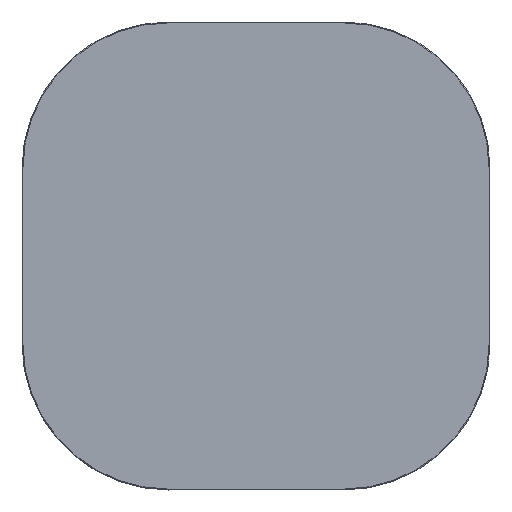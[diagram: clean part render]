
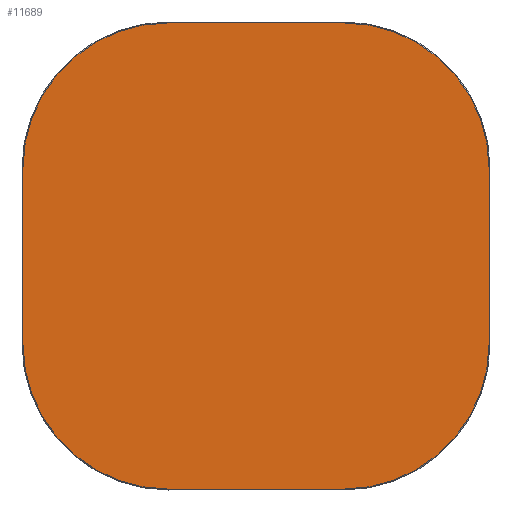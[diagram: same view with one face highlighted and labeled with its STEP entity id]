
A CAD part, top view. The second image highlights one B-rep face of the part: STEP entity #11689.
In plain terms, the highlighted planar face has unit normal (0, 0, 1).
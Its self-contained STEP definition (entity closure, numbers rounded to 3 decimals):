
#11614=CARTESIAN_POINT('',(0.,0.,20.));
#11615=DIRECTION('',(1.,0.,0.));
#11616=DIRECTION('',(0.,0.,1.));
#11617=AXIS2_PLACEMENT_3D('',#11614,#11616,#11615);
#11618=PLANE('',#11617);
#11619=CARTESIAN_POINT('',(-150.,-398.5,20.));
#11620=VERTEX_POINT('',#11619);
#11621=CARTESIAN_POINT('',(150.,-398.5,20.));
#11622=VERTEX_POINT('',#11621);
#11623=CARTESIAN_POINT('',(-150.,-398.5,20.));
#11624=DIRECTION('',(1.,0.,0.));
#11625=VECTOR('',#11624,300.);
#11626=LINE('',#11623,#11625);
#11627=EDGE_CURVE('',#11620,#11622,#11626,.T.);
#11628=ORIENTED_EDGE('E105',*,*,#11627,.T.);
#11629=CARTESIAN_POINT('',(398.5,-150.,20.));
#11630=VERTEX_POINT('',#11629);
#11631=CARTESIAN_POINT('',(150.,-150.,20.));
#11632=DIRECTION('',(0.,-1.,0.));
#11633=DIRECTION('',(0.,0.,1.));
#11634=AXIS2_PLACEMENT_3D('',#11631,#11633,#11632);
#11635=CIRCLE('',#11634,248.5);
#11636=EDGE_CURVE('',#11622,#11630,#11635,.T.);
#11637=ORIENTED_EDGE('E107',*,*,#11636,.T.);
#11638=CARTESIAN_POINT('',(398.5,150.,20.));
#11639=VERTEX_POINT('',#11638);
#11640=CARTESIAN_POINT('',(398.5,-150.,20.));
#11641=DIRECTION('',(0.,1.,0.));
#11642=VECTOR('',#11641,300.);
#11643=LINE('',#11640,#11642);
#11644=EDGE_CURVE('',#11630,#11639,#11643,.T.);
#11645=ORIENTED_EDGE('E109',*,*,#11644,.T.);
#11646=CARTESIAN_POINT('',(150.,398.5,20.));
#11647=VERTEX_POINT('',#11646);
#11648=CARTESIAN_POINT('',(150.,150.,20.));
#11649=DIRECTION('',(1.,0.,0.));
#11650=DIRECTION('',(0.,0.,1.));
#11651=AXIS2_PLACEMENT_3D('',#11648,#11650,#11649);
#11652=CIRCLE('',#11651,248.5);
#11653=EDGE_CURVE('',#11639,#11647,#11652,.T.);
#11654=ORIENTED_EDGE('E111',*,*,#11653,.T.);
#11655=CARTESIAN_POINT('',(-150.,398.5,20.));
#11656=VERTEX_POINT('',#11655);
#11657=CARTESIAN_POINT('',(150.,398.5,20.));
#11658=DIRECTION('',(-1.,0.,0.));
#11659=VECTOR('',#11658,300.);
#11660=LINE('',#11657,#11659);
#11661=EDGE_CURVE('',#11647,#11656,#11660,.T.);
#11662=ORIENTED_EDGE('E113',*,*,#11661,.T.);
#11663=CARTESIAN_POINT('',(-398.5,150.,20.));
#11664=VERTEX_POINT('',#11663);
#11665=CARTESIAN_POINT('',(-150.,150.,20.));
#11666=DIRECTION('',(0.,1.,0.));
#11667=DIRECTION('',(0.,0.,1.));
#11668=AXIS2_PLACEMENT_3D('',#11665,#11667,#11666);
#11669=CIRCLE('',#11668,248.5);
#11670=EDGE_CURVE('',#11656,#11664,#11669,.T.);
#11671=ORIENTED_EDGE('E115',*,*,#11670,.T.);
#11672=CARTESIAN_POINT('',(-398.5,-150.,20.));
#11673=VERTEX_POINT('',#11672);
#11674=CARTESIAN_POINT('',(-398.5,150.,20.));
#11675=DIRECTION('',(0.,-1.,0.));
#11676=VECTOR('',#11675,300.);
#11677=LINE('',#11674,#11676);
#11678=EDGE_CURVE('',#11664,#11673,#11677,.T.);
#11679=ORIENTED_EDGE('E117',*,*,#11678,.T.);
#11680=CARTESIAN_POINT('',(-150.,-150.,20.));
#11681=DIRECTION('',(-1.,0.,0.));
#11682=DIRECTION('',(-0.,0.,1.));
#11683=AXIS2_PLACEMENT_3D('',#11680,#11682,#11681);
#11684=CIRCLE('',#11683,248.5);
#11685=EDGE_CURVE('',#11673,#11620,#11684,.T.);
#11686=ORIENTED_EDGE('E119',*,*,#11685,.T.);
#11687=EDGE_LOOP('',(#11628,#11637,#11645,#11654,#11662,#11671,#11679,#11686));
#11688=FACE_OUTER_BOUND('',#11687,.T.);
#11689=ADVANCED_FACE('F2',(#11688),#11618,.T.);
